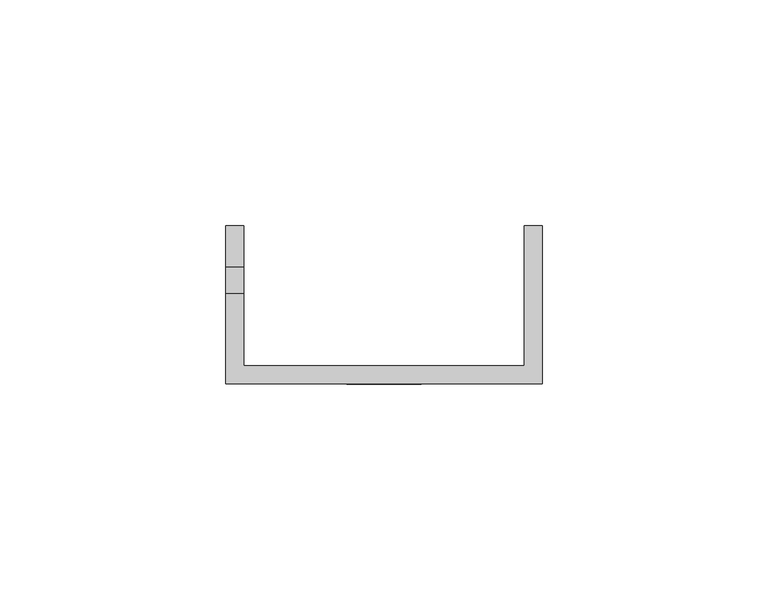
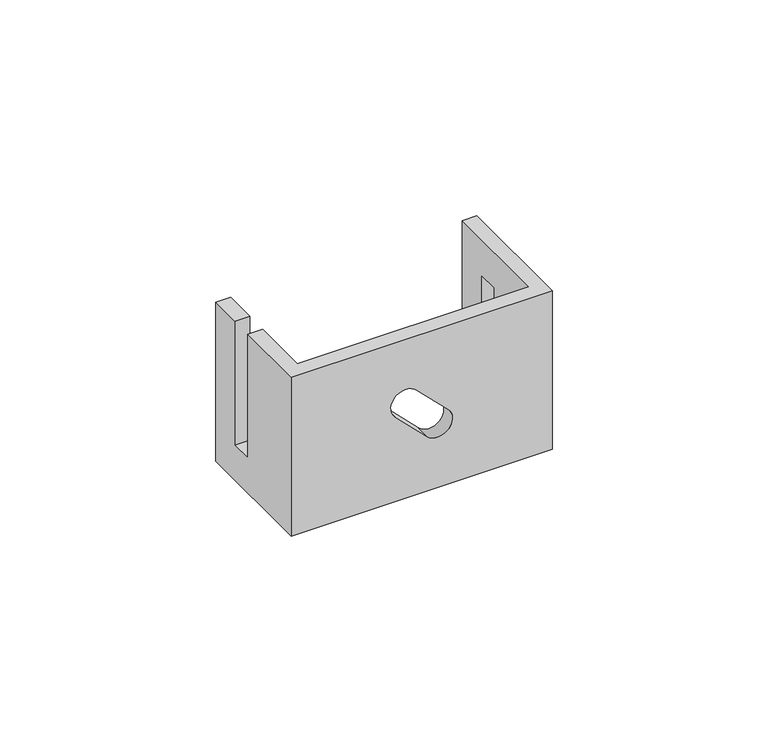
"""IFC4 building model written with IfcOpenShell, lengths in millimetres: proxy geometry, КНС_СкобаДержательПолосы_DKC : ND2310_Горячеоцинкованная сталь_70 мм."""

from ifc_helpers import new_model, si_unit, frame, origin, place, context, project, spatial, polyline, circle_curve, source, transform, mapped, element, save
from ifc_brep_helpers import plane_surface, revolved_surface, advanced_brep


def security_devices_c11cd4c4(model_context):
    return source(origin(), model_context, "Body", "AdvancedBrep", [
        advanced_brep(
        [(-31.0, 35.0, 22.5), (-35.0, 35.0, 22.5), (-35.0, 26.0, 22.5), (-31.0, 26.0, 22.5), (-35.0, 0.0, 22.5), (35.0, 0.0, 22.5), (35.0, 35.0, 22.5), (31.0, 35.0, 22.5), (31.0, 4.0, 22.5), (-31.0, 4.0, 22.5), (-31.0, 20.0, 22.5), (-35.0, 20.0, 22.5), (-31.0, 35.0, -22.5), (-31.0, 4.0, -22.5), (31.0, 4.0, -22.5), (31.0, 20.0, -22.5), (35.0, 20.0, -22.5), (35.0, 0.0, -22.5), (-35.0, 0.0, -22.5), (-35.0, 35.0, -22.5), (31.0, 35.0, -22.5), (35.0, 35.0, -22.5), (35.0, 26.0, -22.5), (31.0, 26.0, -22.5), (-35.0, 20.0, -12.5), (-35.0, 26.0, -12.5), (-7.0710678, 0.0, 1.4142136), (-1.4142136, 0.0, 7.0710678), (7.0710678, 0.0, -1.4142136), (1.4142136, 0.0, -7.0710678), (35.0, 20.0, 12.5), (35.0, 26.0, 12.5), (31.0, 26.0, 12.5), (31.0, 20.0, 12.5), (-1.4142136, 4.0, 7.0710678), (-7.0710678, 4.0, 1.4142136), (1.4142136, 4.0, -7.0710678), (7.0710678, 4.0, -1.4142136), (-31.0, 26.0, -12.5), (-31.0, 20.0, -12.5)],
        [
            (0, 1),
            (1, 2),
            (2, 3),
            (3, 0),
            (4, 5),
            (5, 6),
            (6, 7),
            (7, 8),
            (8, 9),
            (9, 10),
            (10, 11),
            (11, 4),
            (12, 13),
            (13, 14),
            (14, 15),
            (15, 16),
            (16, 17),
            (17, 18),
            (18, 19),
            (19, 12),
            (20, 21),
            (21, 22),
            (22, 23),
            (23, 20),
            (0, 12),
            (19, 1),
            (18, 4),
            (11, 24),
            (24, 25),
            (25, 2),
            (17, 5),
            (26, 27, circle_curve(frame((-4.2426407, 0.0, 4.2426407), z_axis=(0.0, 1.0, 0.0), x_axis=(-1.0, 0.0, 0.0)), 4.0)),
            (27, 28),
            (28, 29, circle_curve(frame((4.2426407, 0.0, -4.2426407), z_axis=(0.0, 1.0, 0.0), x_axis=(-1.0, 0.0, 0.0)), 4.0)),
            (29, 26),
            (16, 30),
            (30, 31),
            (31, 22),
            (21, 6),
            (20, 7),
            (23, 32),
            (32, 33),
            (33, 15),
            (14, 8),
            (13, 9),
            (34, 35, circle_curve(frame((-4.2426407, 4.0, 4.2426407), z_axis=(0.0, -1.0, 0.0), x_axis=(-1.0, 0.0, 0.0)), 4.0)),
            (35, 36),
            (36, 37, circle_curve(frame((4.2426407, 4.0, -4.2426407), z_axis=(0.0, -1.0, 0.0), x_axis=(-1.0, 0.0, 0.0)), 4.0)),
            (37, 34),
            (3, 38),
            (38, 39),
            (39, 10),
            (38, 25),
            (24, 39),
            (30, 33),
            (32, 31),
            (34, 27),
            (26, 35),
            (37, 28),
            (36, 29),
        ],
        [
            plane_surface(frame((-35.0, 35.0, 22.5), z_axis=(0.0, 0.0, 1.0), x_axis=(-1.0, 0.0, 0.0))),
            plane_surface(frame((-35.0, 35.0, -22.5), z_axis=(0.0, 0.0, -1.0), x_axis=(1.0, 0.0, 0.0))),
            plane_surface(frame((-31.0, 35.0, 22.5), z_axis=(0.0, 1.0, 0.0), x_axis=(0.0, 0.0, -1.0))),
            plane_surface(frame((-35.0, 35.0, 22.5), z_axis=(-1.0, 0.0, 0.0), x_axis=(0.0, 0.0, -1.0))),
            plane_surface(frame((-35.0, 0.0, 22.5), z_axis=(0.0, -1.0, 0.0), x_axis=(0.0, 0.0, -1.0))),
            plane_surface(frame((35.0, 0.0, 22.5), z_axis=(1.0, 0.0, 0.0), x_axis=(0.0, 0.0, -1.0))),
            plane_surface(frame((35.0, 35.0, 22.5), z_axis=(0.0, 1.0, 0.0), x_axis=(0.0, 0.0, -1.0))),
            plane_surface(frame((31.0, 35.0, 22.5), z_axis=(-1.0, 0.0, 0.0), x_axis=(0.0, 0.0, -1.0))),
            plane_surface(frame((31.0, 4.0, 22.5), z_axis=(0.0, 1.0, 0.0), x_axis=(0.0, 0.0, -1.0))),
            plane_surface(frame((-31.0, 4.0, 22.5), z_axis=(1.0, 0.0, 0.0), x_axis=(0.0, 0.0, -1.0))),
            plane_surface(frame((-31.0, 20.0, -12.5), z_axis=(0.0, 0.0, 1.0), x_axis=(-1.0, 0.0, 0.0))),
            plane_surface(frame((-31.0, 26.0, -12.5), z_axis=(0.0, -1.0, 0.0), x_axis=(-1.0, 0.0, 0.0))),
            plane_surface(frame((-31.0, 20.0, 22.5), z_axis=(0.0, 1.0, 0.0), x_axis=(-1.0, 0.0, 0.0))),
            plane_surface(frame((35.0, 26.0, 12.5), z_axis=(0.0, 0.0, -1.0), x_axis=(-1.0, 0.0, 0.0))),
            plane_surface(frame((35.0, 20.0, 12.5), z_axis=(0.0, 1.0, 0.0), x_axis=(-1.0, 0.0, 0.0))),
            plane_surface(frame((35.0, 26.0, -22.5), z_axis=(0.0, -1.0, 0.0), x_axis=(-1.0, 0.0, 0.0))),
            revolved_surface(polyline([(-8.242640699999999, 4.0, 4.2426407), (-8.242640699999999, 0.0, 4.2426407)]), (-4.2426407, 0.0, 4.2426407), (0.0, 1.0, 0.0)),
            plane_surface(frame((-1.4142136, 4.0, 7.0710678), z_axis=(-0.7071067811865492, 0.0, -0.7071067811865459), x_axis=(0.0, -1.0, 0.0))),
            revolved_surface(polyline([(0.24264069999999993, 4.0, -4.2426407), (0.24264069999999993, 0.0, -4.2426407)]), (4.2426407, 0.0, -4.2426407), (0.0, 1.0, 0.0)),
            plane_surface(frame((1.4142136, 4.0, -7.0710678), z_axis=(0.7071067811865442, 0.0, 0.7071067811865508), x_axis=(0.0, -1.0, 0.0))),
        ],
        [
            (0, [[1, 2, 3, 4]]),
            (0, [[5, 6, 7, 8, 9, 10, 11, 12]]),
            (1, [[13, 14, 15, 16, 17, 18, 19, 20]]),
            (1, [[21, 22, 23, 24]]),
            (2, [[-1, 25, -20, 26]]),
            (3, [[-19, 27, -12, 28, 29, 30, -2, -26]]),
            (4, [[-5, -27, -18, 31], [32, 33, 34, 35]]),
            (5, [[-6, -31, -17, 36, 37, 38, -22, 39]]),
            (6, [[-7, -39, -21, 40]]),
            (7, [[-8, -40, -24, 41, 42, 43, -15, 44]]),
            (8, [[-9, -44, -14, 45], [46, 47, 48, 49]]),
            (9, [[-13, -25, -4, 50, 51, 52, -10, -45]]),
            (10, [[53, -29, 54, -51]]),
            (11, [[-53, -50, -3, -30]]),
            (12, [[-54, -28, -11, -52]]),
            (13, [[55, -42, 56, -37]]),
            (14, [[-55, -36, -16, -43]]),
            (15, [[-56, -41, -23, -38]]),
            (16, [[57, -32, 58, -46]]),
            (17, [[-57, -49, 59, -33]]),
            (18, [[-59, -48, 60, -34]]),
            (19, [[-58, -35, -60, -47]]),
        ],
    ),
    ])


if __name__ == "__main__":
    model = new_model("IFC4")
    model_context = context("Model", 3, world=origin())
    ifc_project = project(units=[si_unit("LENGTHUNIT", "METRE", prefix="MILLI")], contexts=[model_context])
    site = spatial("IfcSite", under=ifc_project)
    building = spatial("IfcBuilding", under=site)
    placement = place(None, origin())
    security_devices_shape = security_devices_c11cd4c4(model_context)
    element("IfcBuildingElementProxy", 1, Name="КНС_СкобаДержательПолосы_DKC : ND2310_Горячеоцинкованная сталь_70 мм", ObjectType="КНС_СкобаДержательПолосы_DKC : ND2310_Горячеоцинкованная сталь_70 мм", at=placement, inside=building, context=model_context, shape_type="MappedRepresentation", body=[
        mapped(security_devices_shape, transform((0.0, 0.0, 0.0), x_axis=(1.0, 0.0, 0.0), y_axis=(0.0, 1.0, 0.0), z_axis=(0.0, 0.0, 1.0))),
    ])
    save(model, "model.ifc")
